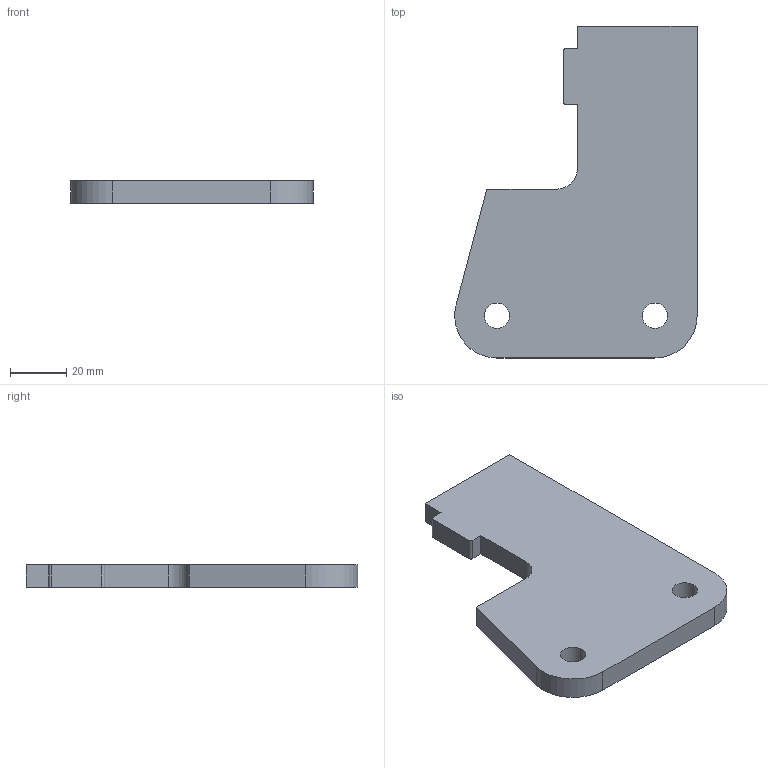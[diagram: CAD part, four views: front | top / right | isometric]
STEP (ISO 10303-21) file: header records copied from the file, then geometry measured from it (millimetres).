
FILE_DESCRIPTION(/* description */ (''),/* implementation_level */ '2;1');
FILE_NAME(/* name */ 'Pos152-Plaatwerk D= 8-S235JRG2-3st',/* time_stamp */ '2024-08-06T13:37:45+02:00',/* author */ (''),/* organization */ (''),/* preprocessor_version */ 'ST-DEVELOPER v16.5',/* originating_system */ 'HiCAD 2024 2901.2 Build 361',/* authorisation */ '');
FILE_SCHEMA (('AUTOMOTIVE_DESIGN { 1 0 10303 214 1 1 1 1 }'));
Length unit declared in the file: millimetre
Products named in the file (1): Pos152-Plaatwerk D= 8-S235JRG2-3st
Bounding box: 86.11 x 118 x 8 mm (x, y, z)
Volume: 58216.4 mm3; surface area: 18138 mm2
Topology: 1 solids, 1 shells, 19 faces, 53 edges, 36 vertices
Faces by surface type: plane 12, cylinder 7
Full cylindrical faces by diameter (mm): 9 x2
Entity records: 1105 total; most frequent: CARTESIAN_POINT 102, DIRECTION 101, PRESENTATION_STYLE_ASSIGNMENT 99, COLOUR_RGB 99, DRAUGHTING_PRE_DEFINED_CURVE_FONT 98, CURVE_STYLE 98, OVER_RIDING_STYLED_ITEM 98, ORIENTED_EDGE 98
